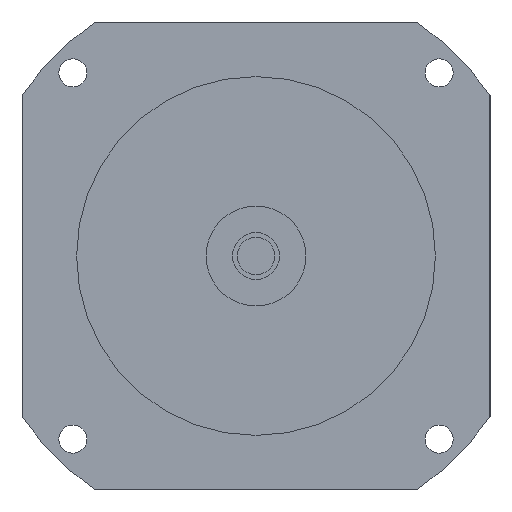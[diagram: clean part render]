
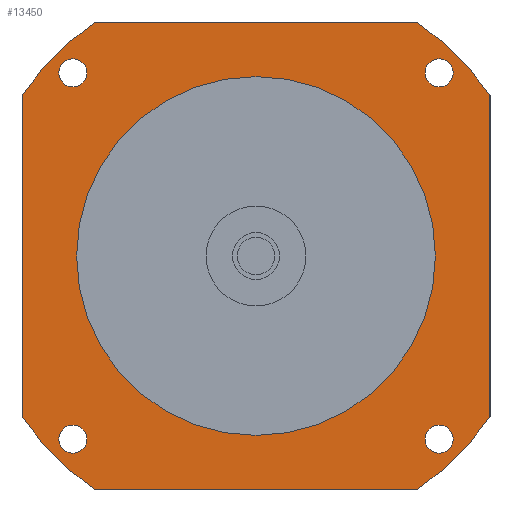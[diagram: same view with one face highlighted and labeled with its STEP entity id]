
A CAD part, left-side view. The second image highlights one B-rep face of the part: STEP entity #13450.
In plain terms, the highlighted planar face has unit normal (-1, 0, 0) as drawn and (0, 0, -1) by its records, which use the part's own axes.
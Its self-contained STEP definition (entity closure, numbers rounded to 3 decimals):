
#8640=CARTESIAN_POINT('',(75.,51.536,-62.2));
#8650=VERTEX_POINT('',#8640);
#8700=CARTESIAN_POINT('',(75.,75.,-62.2));
#8710=DIRECTION('',(0.,-1.,0.));
#8720=VECTOR('',#8710,1000.);
#8730=LINE('',#8700,#8720);
#8740=CARTESIAN_POINT('',(75.,-51.536,-62.2));
#8750=VERTEX_POINT('',#8740);
#8760=EDGE_CURVE('',#8650,#8750,#8730,.T.);
#9040=CARTESIAN_POINT('',(-51.536,75.,-62.2));
#9050=VERTEX_POINT('',#9040);
#9230=CARTESIAN_POINT('',(-75.,51.536,-62.2));
#9240=VERTEX_POINT('',#9230);
#9270=CARTESIAN_POINT('',(0.,0.,
-62.2));
#9280=DIRECTION('',(0.,0.,-1.));
#9290=DIRECTION('',(1.,0.,0.));
#9300=AXIS2_PLACEMENT_3D('',#9270,#9280,#9290);
#9310=CIRCLE('',#9300,91.);
#9320=EDGE_CURVE('',#9240,#9050,#9310,.T.);
#11970=CARTESIAN_POINT('',(-54.19,58.69,-62.2));
#11980=VERTEX_POINT('',#11970);
#12010=CARTESIAN_POINT('',(-58.69,58.69,-62.2));
#12020=DIRECTION('',(0.,0.,-1.));
#12030=DIRECTION('',(-1.,0.,0.));
#12040=AXIS2_PLACEMENT_3D('',#12010,#12020,#12030);
#12050=CIRCLE('',#12040,4.5);
#12060=CARTESIAN_POINT('',(-63.19,58.69,-62.2));
#12070=VERTEX_POINT('',#12060);
#12080=EDGE_CURVE('',#12070,#11980,#12050,.T.);
#12200=CARTESIAN_POINT('',(75.,75.,-62.2));
#12210=DIRECTION('',(0.,0.,-1.));
#12220=DIRECTION('',(1.,0.,0.));
#12230=AXIS2_PLACEMENT_3D('',#12200,#12210,#12220);
#12240=PLANE('',#12230);
#12250=ORIENTED_EDGE('',*,*,#12080,.F.);
#12260=EDGE_CURVE('',#11980,#12070,#12050,.T.);
#12270=ORIENTED_EDGE('',*,*,#12260,.F.);
#12280=EDGE_LOOP('',(#12270,#12250));
#12290=FACE_BOUND('',#12280,.T.);
#12300=CARTESIAN_POINT('',(58.69,58.69,-62.2));
#12310=DIRECTION('',(0.,0.,-1.));
#12320=DIRECTION('',(0.,1.,0.));
#12330=AXIS2_PLACEMENT_3D('',#12300,#12310,#12320);
#12340=CIRCLE('',#12330,4.5);
#12350=CARTESIAN_POINT('',(58.69,63.19,-62.2));
#12360=VERTEX_POINT('',#12350);
#12370=CARTESIAN_POINT('',(58.69,54.19,-62.2));
#12380=VERTEX_POINT('',#12370);
#12390=EDGE_CURVE('',#12360,#12380,#12340,.T.);
#12400=ORIENTED_EDGE('',*,*,#12390,.F.);
#12410=EDGE_CURVE('',#12380,#12360,#12340,.T.);
#12420=ORIENTED_EDGE('',*,*,#12410,.F.);
#12430=EDGE_LOOP('',(#12420,#12400));
#12440=FACE_BOUND('',#12430,.T.);
#12450=CARTESIAN_POINT('',(0.,0.,
-62.2));
#12460=DIRECTION('',(0.,0.,1.));
#12470=DIRECTION('',(0.,1.,0.));
#12480=AXIS2_PLACEMENT_3D('',#12450,#12460,#12470);
#12490=CIRCLE('',#12480,57.5);
#12500=CARTESIAN_POINT('',(-57.5,0.,-62.2));
#12510=VERTEX_POINT('',#12500);
#12520=CARTESIAN_POINT('',(57.5,0.,-62.2));
#12530=VERTEX_POINT('',#12520);
#12540=EDGE_CURVE('',#12510,#12530,#12490,.T.);
#12550=ORIENTED_EDGE('',*,*,#12540,.T.);
#12560=CARTESIAN_POINT('',(0.,57.5,-62.2));
#12570=VERTEX_POINT('',#12560);
#12580=EDGE_CURVE('',#12570,#12510,#12490,.T.);
#12590=ORIENTED_EDGE('',*,*,#12580,.T.);
#12600=EDGE_CURVE('',#12530,#12570,#12490,.T.);
#12610=ORIENTED_EDGE('',*,*,#12600,.T.);
#12620=EDGE_LOOP('',(#12610,#12590,#12550));
#12630=FACE_BOUND('',#12620,.T.);
#12640=CARTESIAN_POINT('',(58.69,-58.69,-62.2));
#12650=DIRECTION('',(0.,0.,-1.));
#12660=DIRECTION('',(1.,0.,0.));
#12670=AXIS2_PLACEMENT_3D('',#12640,#12650,#12660);
#12680=CIRCLE('',#12670,4.5);
#12690=CARTESIAN_POINT('',(63.19,-58.69,-62.2));
#12700=VERTEX_POINT('',#12690);
#12710=CARTESIAN_POINT('',(54.19,-58.69,-62.2));
#12720=VERTEX_POINT('',#12710);
#12730=EDGE_CURVE('',#12700,#12720,#12680,.T.);
#12740=ORIENTED_EDGE('',*,*,#12730,.F.);
#12750=EDGE_CURVE('',#12720,#12700,#12680,.T.);
#12760=ORIENTED_EDGE('',*,*,#12750,.F.);
#12770=EDGE_LOOP('',(#12760,#12740));
#12780=FACE_BOUND('',#12770,.T.);
#12790=CARTESIAN_POINT('',(-58.69,-58.69,-62.2));
#12800=DIRECTION('',(0.,0.,-1.));
#12810=DIRECTION('',(0.,-1.,0.));
#12820=AXIS2_PLACEMENT_3D('',#12790,#12800,#12810);
#12830=CIRCLE('',#12820,4.5);
#12840=CARTESIAN_POINT('',(-58.69,-63.19,-62.2));
#12850=VERTEX_POINT('',#12840);
#12860=CARTESIAN_POINT('',(-58.69,-54.19,-62.2));
#12870=VERTEX_POINT('',#12860);
#12880=EDGE_CURVE('',#12850,#12870,#12830,.T.);
#12890=ORIENTED_EDGE('',*,*,#12880,.F.);
#12900=EDGE_CURVE('',#12870,#12850,#12830,.T.);
#12910=ORIENTED_EDGE('',*,*,#12900,.F.);
#12920=EDGE_LOOP('',(#12910,#12890));
#12930=FACE_BOUND('',#12920,.T.);
#12940=CARTESIAN_POINT('',(-75.,75.,-62.2));
#12950=DIRECTION('',(1.,0.,0.));
#12960=VECTOR('',#12950,1000.);
#12970=LINE('',#12940,#12960);
#12980=CARTESIAN_POINT('',(51.536,75.,-62.2));
#12990=VERTEX_POINT('',#12980);
#13000=EDGE_CURVE('',#9050,#12990,#12970,.T.);
#13010=ORIENTED_EDGE('',*,*,#13000,.T.);
#13020=ORIENTED_EDGE('',*,*,#9320,.T.);
#13030=CARTESIAN_POINT('',(-75.,-75.,-62.2));
#13040=DIRECTION('',(0.,1.,0.));
#13050=VECTOR('',#13040,1000.);
#13060=LINE('',#13030,#13050);
#13070=CARTESIAN_POINT('',(-75.,-51.536,-62.2));
#13080=VERTEX_POINT('',#13070);
#13090=EDGE_CURVE('',#13080,#9240,#13060,.T.);
#13100=ORIENTED_EDGE('',*,*,#13090,.T.);
#13110=CARTESIAN_POINT('',(0.,0.,
-62.2));
#13120=DIRECTION('',(0.,0.,-1.));
#13130=DIRECTION('',(1.,0.,0.));
#13140=AXIS2_PLACEMENT_3D('',#13110,#13120,#13130);
#13150=CIRCLE('',#13140,91.);
#13160=CARTESIAN_POINT('',(-51.536,-75.,-62.2));
#13170=VERTEX_POINT('',#13160);
#13180=EDGE_CURVE('',#13170,#13080,#13150,.T.);
#13190=ORIENTED_EDGE('',*,*,#13180,.T.);
#13200=CARTESIAN_POINT('',(75.,-75.,-62.2));
#13210=DIRECTION('',(-1.,0.,0.));
#13220=VECTOR('',#13210,1000.);
#13230=LINE('',#13200,#13220);
#13240=CARTESIAN_POINT('',(51.536,-75.,-62.2));
#13250=VERTEX_POINT('',#13240);
#13260=EDGE_CURVE('',#13250,#13170,#13230,.T.);
#13270=ORIENTED_EDGE('',*,*,#13260,.T.);
#13280=CARTESIAN_POINT('',(0.,0.,
-62.2));
#13290=DIRECTION('',(0.,0.,-1.));
#13300=DIRECTION('',(1.,0.,0.));
#13310=AXIS2_PLACEMENT_3D('',#13280,#13290,#13300);
#13320=CIRCLE('',#13310,91.);
#13330=EDGE_CURVE('',#8750,#13250,#13320,.T.);
#13340=ORIENTED_EDGE('',*,*,#13330,.T.);
#13350=ORIENTED_EDGE('',*,*,#8760,.T.);
#13360=CARTESIAN_POINT('',(0.,0.,
-62.2));
#13370=DIRECTION('',(0.,0.,-1.));
#13380=DIRECTION('',(1.,0.,0.));
#13390=AXIS2_PLACEMENT_3D('',#13360,#13370,#13380);
#13400=CIRCLE('',#13390,91.);
#13410=EDGE_CURVE('',#12990,#8650,#13400,.T.);
#13420=ORIENTED_EDGE('',*,*,#13410,.T.);
#13430=EDGE_LOOP('',(#13420,#13350,#13340,#13270,#13190,#13100,#13020,
#13010));
#13440=FACE_OUTER_BOUND('',#13430,.T.);
#13450=ADVANCED_FACE('',(#12290,#12440,#12630,#12780,#12930,#13440),
#12240,.T.);
